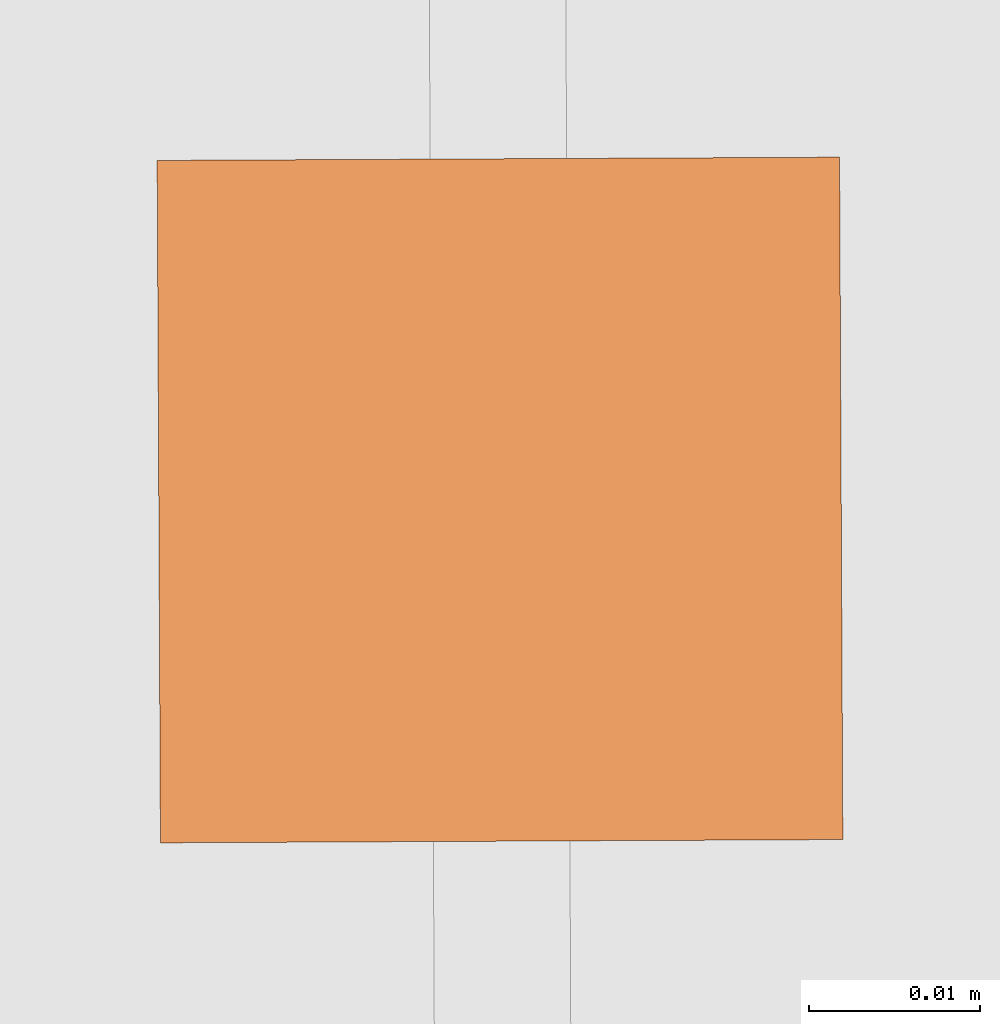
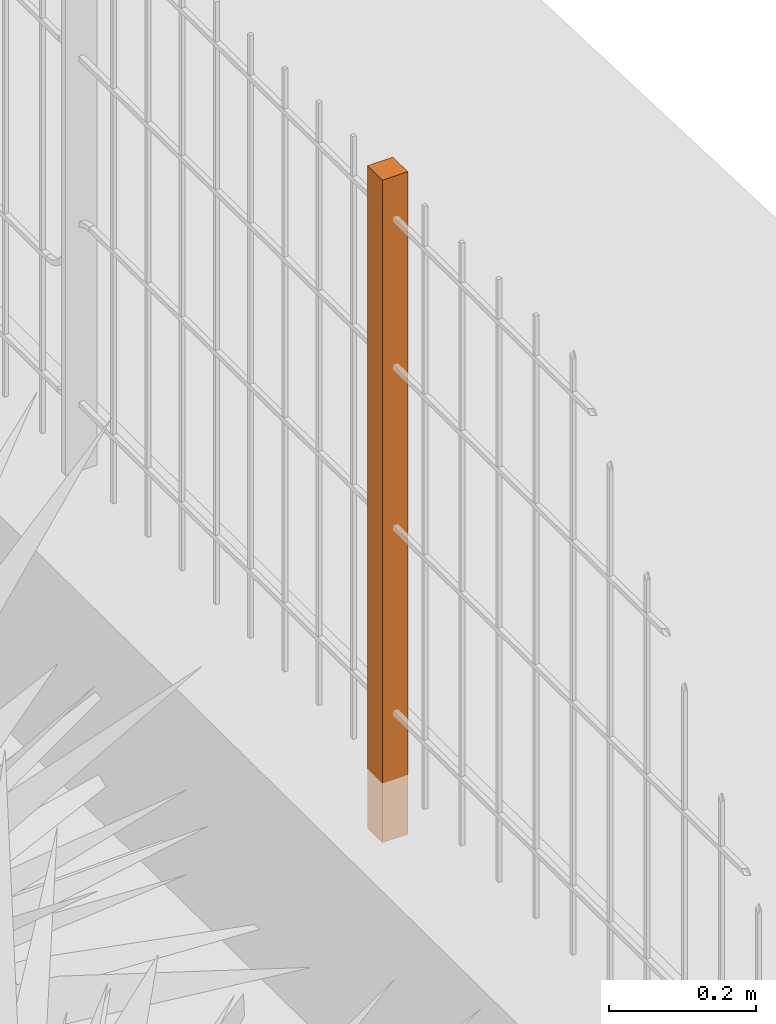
# One storey, part 39 of 1809: 1 proxy, 1 element without a shape of its own.
"""IFC2X3 building model written with IfcOpenShell, lengths in millimetres."""

from ifc_helpers import new_model, entity, si_unit, converted_unit, derived_unit, money_unit, direction, frame, origin_with_axes, place, context, subcontext, project, spatial, faceted_brep, source, transform, mapped, material, type_object, element, aggregate, save


model = new_model("IFC2X3")

# Units and contexts
model_context = context("Model", 3, precision=0.01, world=origin_with_axes(), true_north=direction((0.0, 1.0)))
body_context = subcontext(model_context, "Body", "Model", "MODEL_VIEW")
ifc_project = project(units=[si_unit("LENGTHUNIT", "METRE", prefix="MILLI"), si_unit("AREAUNIT", "SQUARE_METRE"), si_unit("VOLUMEUNIT", "CUBIC_METRE"), converted_unit("PLANEANGLEUNIT", "DEGREE", entity("IfcPlaneAngleMeasure", 0.0174532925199), si_unit("PLANEANGLEUNIT", "RADIAN"), dimensions=[0, 0, 0, 0, 0, 0, 0]), si_unit("SOLIDANGLEUNIT", "STERADIAN"), money_unit("EUR"), converted_unit("TIMEUNIT", "Year", entity("IfcTimeMeasure", 31556926.0), si_unit("TIMEUNIT", "SECOND"), dimensions=[0, 0, 1, 0, 0, 0, 0]), si_unit("MASSUNIT", "GRAM", prefix="KILO"), si_unit("THERMODYNAMICTEMPERATUREUNIT", "DEGREE_CELSIUS"), si_unit("LUMINOUSINTENSITYUNIT", "LUMEN"), si_unit("ENERGYUNIT", "JOULE", prefix="MEGA"), derived_unit("THERMALCONDUCTANCEUNIT", [(si_unit("POWERUNIT", "WATT"), 1), (si_unit("LENGTHUNIT", "METRE"), -1), (si_unit("THERMODYNAMICTEMPERATUREUNIT", "KELVIN"), -1)]), derived_unit("SPECIFICHEATCAPACITYUNIT", [(si_unit("ENERGYUNIT", "JOULE"), 1), (si_unit("MASSUNIT", "GRAM", prefix="KILO"), -1), (si_unit("THERMODYNAMICTEMPERATUREUNIT", "KELVIN"), -1)]), derived_unit("MASSDENSITYUNIT", [(si_unit("MASSUNIT", "GRAM", prefix="KILO"), 1), (si_unit("VOLUMEUNIT", "CUBIC_METRE"), -1)])], contexts=[model_context])

# Site, building, storey
site_placement = place(None, origin_with_axes())
site = spatial("IfcSite", under=ifc_project, at=site_placement, Name="Politse- ja Piirivalveameti ning Päästeameti ühishoone", CompositionType="ELEMENT")
building_placement = place(site_placement, origin_with_axes())
building = spatial("IfcBuilding", under=site, at=building_placement, Name="Politse- ja Piirivalveameti ning Päästeameti ühishoone", CompositionType="ELEMENT")
storey_placement = place(building_placement, origin_with_axes())
storey = spatial("IfcBuildingStorey", under=building, at=storey_placement, Name="Esimene korrus", CompositionType="ELEMENT", Elevation=0.0)

# Proxies
building_element_proxy_type_1 = type_object("IfcBuildingElementProxyType", Name="Railing Type", PredefinedType="NOTDEFINED")
proxy_1_placement = place(storey_placement, frame((88449.2204314, 58319.144353, 0.0), z_axis=(0.0, 0.0, 1.0), x_axis=(1.0, 0.0, 0.0)))
proxy_1 = element("IfcBuildingElementProxy", 1, at=proxy_1_placement, inside=storey, type_object=building_element_proxy_type_1, Name="PIIRDEAED")
ifc_material = material(Name="Teras - Konstruktsioon")
building_element_proxy_type_2 = type_object("IfcBuildingElementProxyType", Name="IfcBuildingElementProxy", PredefinedType="NOTDEFINED")
shared_shape = source(origin_with_axes(), body_context, "Body", "Brep", [
    faceted_brep([(20.0, 20.0, 0.0), (-20.0, 20.0, 0.0), (-20.0, 20.0, 1100.0), (20.0, 20.0, 1100.0), (20.0, -20.0, 0.0), (-20.0, -20.0, 0.0), (-20.0, -20.0, 1100.0), (20.0, -20.0, 1100.0)], [[[0, 1, 2, 3]], [[0, 4, 5, 1]], [[1, 5, 6, 2]], [[3, 2, 6, 7]], [[4, 0, 3, 7]], [[5, 4, 7, 6]]]),
])
proxy_2_placement = place(proxy_1_placement, frame((517.872118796, -869.389208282, 0.0), z_axis=(0.0, 0.0, 1.0), x_axis=(1.0, 0.0, 0.0)))
proxy_2 = element("IfcBuildingElementProxy", 2, at=proxy_2_placement, type_object=building_element_proxy_type_2, material=ifc_material, Name="SISEPOST - 001", context=body_context, shape_type="MappedRepresentation", body=[
    mapped(shared_shape, transform((0.0, 0.0, 0.0), x_axis=(0.999988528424, 0.00478988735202, 0.0), y_axis=(-0.00478988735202, 0.999988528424, 0.0), z_axis=(0.0, 0.0, 1.0))),
])
aggregate(proxy_1, [proxy_2])

save(model, "model.ifc")
